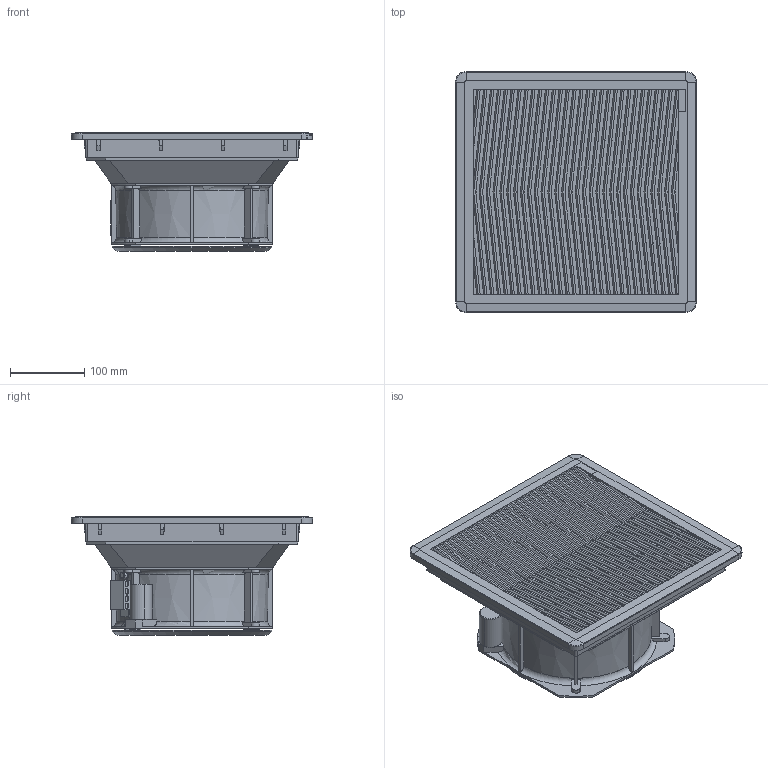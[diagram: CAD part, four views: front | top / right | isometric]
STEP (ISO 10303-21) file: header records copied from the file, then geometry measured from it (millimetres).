
FILE_DESCRIPTION (( 'STEP AP214' ), '1' );
FILE_NAME ('FF20AxxxyE.STEP', '2023-10-05T12:54:40', ( '' ), ( '' ), 'SwSTEP 2.0', 'SolidWorks 2022', '' );
FILE_SCHEMA (( 'AUTOMOTIVE_DESIGN' ));
Length unit declared in the file: millimetre
Products named in the file (11): 040014_LK_980-01-4_Semplificata; FF20AxxxyE; DT-04082DSI_mostrina semplificata; DT-02093DSI_C22s semplificato con cond.; DT-02092DSI_b_semplificato; DT-00228DSI_Semplificata; DT-01552DSI_semplificata; GMP200NK_semplificata; DT-00230DSI_Semplificato; DT-02091DSI_semplificato; P20FPF-7035_semplificata
Assembly tree (10 placements, depth 3):
  FF20AxxxyE
    DT-01552DSI_semplificata
      DT-00228DSI_Semplificata
    P20FPF-7035_semplificata
    DT-00230DSI_Semplificato
    DT-02093DSI_C22s semplificato con cond.
      DT-02091DSI_semplificato
      DT-02092DSI_b_semplificato
      040014_LK_980-01-4_Semplificata
    GMP200NK_semplificata
    DT-04082DSI_mostrina semplificata
Bounding box: 325 x 325 x 160.37 mm (x, y, z)
Volume: 8119370.4 mm3; surface area: 966173.9 mm2
Topology: 8 solids, 8 shells, 1000 faces, 3000 edges, 2033 vertices
Faces by surface type: plane 801, bspline 90, cylinder 53, torus 35, cone 21
Entity records: 43485 total; most frequent: CARTESIAN_POINT 16760, ORIENTED_EDGE 5998, DIRECTION 4685, EDGE_CURVE 2999, LINE 2437, VECTOR 2437, VERTEX_POINT 2033, AXIS2_PLACEMENT_3D 1124
